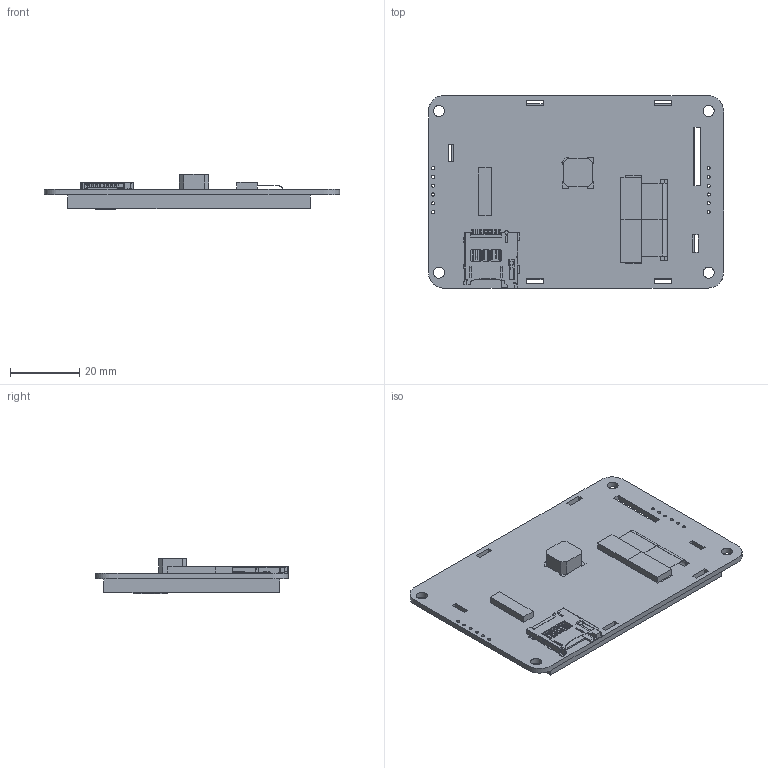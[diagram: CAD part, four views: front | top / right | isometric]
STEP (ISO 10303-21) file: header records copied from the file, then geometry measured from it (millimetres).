
FILE_DESCRIPTION(/* description */ (''),/* implementation_level */ '2;1');
FILE_NAME(/* name */ '',/* time_stamp */ '2023-05-27T16:43:08+08:00',/* author */ (''),/* organization */ (''),/* preprocessor_version */ 'ST-DEVELOPER v11',/* originating_system */ 'SIEMENS PLM Software NX 7.5',/* authorisation */ '');
FILE_SCHEMA (('AP203_CONFIGURATION_CONTROLLED_3D_DESIGN_OF_MECHANICAL_PARTS_AND_ASSEMBLIES_MIM_LF'));
Length unit declared in the file: millimetre
Products named in the file (1): SDWn028C23N
Bounding box: 85.2 x 55.71 x 10.11 mm (x, y, z)
Volume: 32053.6 mm3; surface area: 28068.9 mm2
Topology: 9 solids, 9 shells, 1258 faces, 3504 edges, 2281 vertices
Faces by surface type: plane 994, cylinder 262, cone 1, extrusion 1
Full cylindrical faces by diameter (mm): 0.9 x12, 3.2 x4
Entity records: 40644 total; most frequent: CARTESIAN_POINT 7414, ORIENTED_EDGE 6974, DIRECTION 6426, EDGE_CURVE 3487, VECTOR 2852, LINE 2851, VERTEX_POINT 2281, AXIS2_PLACEMENT_3D 1787
